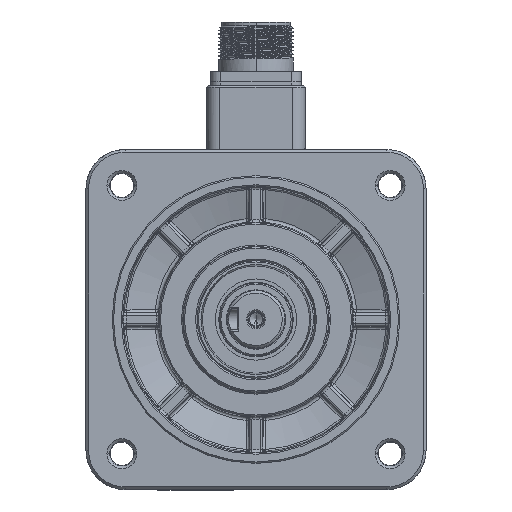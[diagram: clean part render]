
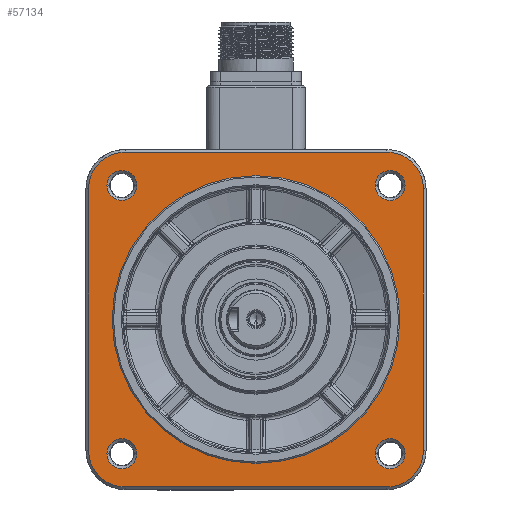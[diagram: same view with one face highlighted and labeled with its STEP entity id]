
A CAD part, top view. The second image highlights one B-rep face of the part: STEP entity #57134.
In plain terms, the highlighted planar face has unit normal (0, 0, 1).
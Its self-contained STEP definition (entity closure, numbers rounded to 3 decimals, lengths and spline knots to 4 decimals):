
#15927=CARTESIAN_POINT('',(-1.9685,1.9685,
3.3661));
#15928=DIRECTION('',(0.,0.,1.));
#15929=DIRECTION('',(0.,1.,0.));
#15930=AXIS2_PLACEMENT_3D('',#15927,#15928,#15929);
#15932=DIRECTION('',(-1.,0.,0.));
#15933=VECTOR('',#15932,3.937);
#15934=CARTESIAN_POINT('',(1.9685,2.519,3.3661));
#15935=LINE('',#15934,#15933);
#15936=CARTESIAN_POINT('',(1.9685,1.9685,3.3661));
#15937=DIRECTION('',(0.,0.,1.));
#15938=DIRECTION('',(1.,0.,0.));
#15939=AXIS2_PLACEMENT_3D('',#15936,#15937,#15938);
#15941=DIRECTION('',(0.,1.,0.));
#15942=VECTOR('',#15941,3.937);
#15943=CARTESIAN_POINT('',(2.519,-1.9685,
3.3661));
#15944=LINE('',#15943,#15942);
#15945=CARTESIAN_POINT('',(1.9685,-1.9685,
3.3661));
#15946=DIRECTION('',(0.,0.,1.));
#15947=DIRECTION('',(0.,-1.,0.));
#15948=AXIS2_PLACEMENT_3D('',#15945,#15946,#15947);
#15950=DIRECTION('',(1.,0.,0.));
#15951=VECTOR('',#15950,3.937);
#15952=CARTESIAN_POINT('',(-1.9685,-2.519,
3.3661));
#15953=LINE('',#15952,#15951);
#15954=CARTESIAN_POINT('',(-1.9685,-1.9685,
3.3661));
#15955=DIRECTION('',(0.,0.,1.));
#15956=DIRECTION('',(-1.,0.,0.));
#15957=AXIS2_PLACEMENT_3D('',#15954,#15955,#15956);
#15959=DIRECTION('',(0.,-1.,0.));
#15960=VECTOR('',#15959,3.937);
#15961=CARTESIAN_POINT('',(-2.519,1.9685,
3.3661));
#15962=LINE('',#15961,#15960);
#15963=CARTESIAN_POINT('',(-2.0183,2.0183,
3.3661));
#15964=DIRECTION('',(0.,0.,-1.));
#15965=DIRECTION('',(1.,0.,0.));
#15966=AXIS2_PLACEMENT_3D('',#15963,#15964,#15965);
#15968=CARTESIAN_POINT('',(-2.0183,2.0183,
3.3661));
#15969=DIRECTION('',(0.,0.,-1.));
#15970=DIRECTION('',(-1.,0.,0.));
#15971=AXIS2_PLACEMENT_3D('',#15968,#15969,#15970);
#15973=CARTESIAN_POINT('',(2.0183,2.0183,3.3661));
#15974=DIRECTION('',(0.,0.,-1.));
#15975=DIRECTION('',(-1.,0.,0.));
#15976=AXIS2_PLACEMENT_3D('',#15973,#15974,#15975);
#15978=CARTESIAN_POINT('',(2.0183,2.0183,3.3661));
#15979=DIRECTION('',(0.,0.,-1.));
#15980=DIRECTION('',(1.,0.,0.));
#15981=AXIS2_PLACEMENT_3D('',#15978,#15979,#15980);
#15983=CARTESIAN_POINT('',(2.0183,-2.0183,
3.3661));
#15984=DIRECTION('',(0.,0.,-1.));
#15985=DIRECTION('',(1.,0.,0.));
#15986=AXIS2_PLACEMENT_3D('',#15983,#15984,#15985);
#15988=CARTESIAN_POINT('',(2.0183,-2.0183,
3.3661));
#15989=DIRECTION('',(0.,0.,-1.));
#15990=DIRECTION('',(-1.,0.,0.));
#15991=AXIS2_PLACEMENT_3D('',#15988,#15989,#15990);
#15993=CARTESIAN_POINT('',(-2.0183,-2.0183,
3.3661));
#15994=DIRECTION('',(0.,0.,-1.));
#15995=DIRECTION('',(1.,0.,0.));
#15996=AXIS2_PLACEMENT_3D('',#15993,#15994,#15995);
#15998=CARTESIAN_POINT('',(-2.0183,-2.0183,
3.3661));
#15999=DIRECTION('',(0.,0.,-1.));
#16000=DIRECTION('',(-1.,0.,0.));
#16001=AXIS2_PLACEMENT_3D('',#15998,#15999,#16000);
#16124=CARTESIAN_POINT('',(0.,0.,3.3661));
#16125=DIRECTION('',(0.,0.,-1.));
#16126=DIRECTION('',(0.,1.,0.));
#16127=AXIS2_PLACEMENT_3D('',#16124,#16125,#16126);
#16166=CARTESIAN_POINT('',(0.,0.,3.3661));
#16167=DIRECTION('',(0.,0.,1.));
#16168=DIRECTION('',(0.,1.,0.));
#16169=AXIS2_PLACEMENT_3D('',#16166,#16167,#16168);
#27596=CARTESIAN_POINT('',(0.,2.1654,3.3661));
#27597=CARTESIAN_POINT('',(0.,-2.1654,3.3661));
#27598=VERTEX_POINT('',#27596);
#27599=VERTEX_POINT('',#27597);
#27900=CARTESIAN_POINT('',(-1.7932,2.0183,
3.3661));
#27901=CARTESIAN_POINT('',(-2.2434,2.0183,
3.3661));
#27902=VERTEX_POINT('',#27900);
#27903=VERTEX_POINT('',#27901);
#27908=CARTESIAN_POINT('',(-1.9685,2.519,
3.3661));
#27909=CARTESIAN_POINT('',(-2.519,1.9685,
3.3661));
#27910=VERTEX_POINT('',#27908);
#27911=VERTEX_POINT('',#27909);
#27916=CARTESIAN_POINT('',(-2.519,-1.9685,
3.3661));
#27917=VERTEX_POINT('',#27916);
#27920=CARTESIAN_POINT('',(-1.9685,-2.519,
3.3661));
#27921=VERTEX_POINT('',#27920);
#27924=CARTESIAN_POINT('',(1.9685,-2.519,
3.3661));
#27925=VERTEX_POINT('',#27924);
#27928=CARTESIAN_POINT('',(2.519,-1.9685,
3.3661));
#27929=VERTEX_POINT('',#27928);
#27932=CARTESIAN_POINT('',(2.519,1.9685,3.3661));
#27933=VERTEX_POINT('',#27932);
#27936=CARTESIAN_POINT('',(1.9685,2.519,3.3661));
#27937=VERTEX_POINT('',#27936);
#27940=CARTESIAN_POINT('',(1.7932,2.0183,3.3661));
#27941=CARTESIAN_POINT('',(2.2434,2.0183,3.3661));
#27942=VERTEX_POINT('',#27940);
#27943=VERTEX_POINT('',#27941);
#27948=CARTESIAN_POINT('',(2.2434,-2.0183,
3.3661));
#27949=CARTESIAN_POINT('',(1.7932,-2.0183,
3.3661));
#27950=VERTEX_POINT('',#27948);
#27951=VERTEX_POINT('',#27949);
#27956=CARTESIAN_POINT('',(-1.7932,-2.0183,
3.3661));
#27957=CARTESIAN_POINT('',(-2.2434,-2.0183,
3.3661));
#27958=VERTEX_POINT('',#27956);
#27959=VERTEX_POINT('',#27957);
#57082=CARTESIAN_POINT('',(0.,0.,3.3661));
#57083=DIRECTION('',(0.,0.,-1.));
#57084=DIRECTION('',(0.,-1.,0.));
#57085=AXIS2_PLACEMENT_3D('',#57082,#57083,#57084);
#57086=PLANE('',#57085);
#57088=ORIENTED_EDGE('',*,*,#57087,.F.);
#57090=ORIENTED_EDGE('',*,*,#57089,.F.);
#57092=ORIENTED_EDGE('',*,*,#57091,.F.);
#57094=ORIENTED_EDGE('',*,*,#57093,.F.);
#57096=ORIENTED_EDGE('',*,*,#57095,.F.);
#57098=ORIENTED_EDGE('',*,*,#57097,.F.);
#57100=ORIENTED_EDGE('',*,*,#57099,.F.);
#57102=ORIENTED_EDGE('',*,*,#57101,.F.);
#57103=EDGE_LOOP('',(#57088,#57090,#57092,#57094,#57096,#57098,#57100,#57102));
#57104=FACE_OUTER_BOUND('',#57103,.F.);
#57106=ORIENTED_EDGE('',*,*,#57105,.F.);
#57108=ORIENTED_EDGE('',*,*,#57107,.T.);
#57109=EDGE_LOOP('',(#57106,#57108));
#57110=FACE_BOUND('',#57109,.F.);
#57112=ORIENTED_EDGE('',*,*,#57111,.F.);
#57114=ORIENTED_EDGE('',*,*,#57113,.F.);
#57115=EDGE_LOOP('',(#57112,#57114));
#57116=FACE_BOUND('',#57115,.F.);
#57118=ORIENTED_EDGE('',*,*,#57117,.F.);
#57119=ORIENTED_EDGE('',*,*,#57072,.F.);
#57120=EDGE_LOOP('',(#57118,#57119));
#57121=FACE_BOUND('',#57120,.F.);
#57123=ORIENTED_EDGE('',*,*,#57122,.F.);
#57125=ORIENTED_EDGE('',*,*,#57124,.F.);
#57126=EDGE_LOOP('',(#57123,#57125));
#57127=FACE_BOUND('',#57126,.F.);
#57129=ORIENTED_EDGE('',*,*,#57128,.F.);
#57131=ORIENTED_EDGE('',*,*,#57130,.F.);
#57132=EDGE_LOOP('',(#57129,#57131));
#57133=FACE_BOUND('',#57132,.F.);
#57134=ADVANCED_FACE('',(#57104,#57110,#57116,#57121,#57127,#57133),#57086,.F.);
#15931=CIRCLE('',#15930,0.5505);
#15940=CIRCLE('',#15939,0.5505);
#15949=CIRCLE('',#15948,0.5505);
#15958=CIRCLE('',#15957,0.5505);
#15967=CIRCLE('',#15966,0.2251);
#15972=CIRCLE('',#15971,0.2251);
#15977=CIRCLE('',#15976,0.2251);
#15982=CIRCLE('',#15981,0.2251);
#15987=CIRCLE('',#15986,0.2251);
#15992=CIRCLE('',#15991,0.2251);
#15997=CIRCLE('',#15996,0.2251);
#16002=CIRCLE('',#16001,0.2251);
#16128=CIRCLE('',#16127,2.1654);
#16170=CIRCLE('',#16169,2.1654);
#57072=EDGE_CURVE('',#27943,#27942,#15982,.T.);
#57087=EDGE_CURVE('',#27910,#27911,#15931,.T.);
#57089=EDGE_CURVE('',#27937,#27910,#15935,.T.);
#57091=EDGE_CURVE('',#27933,#27937,#15940,.T.);
#57093=EDGE_CURVE('',#27929,#27933,#15944,.T.);
#57095=EDGE_CURVE('',#27925,#27929,#15949,.T.);
#57097=EDGE_CURVE('',#27921,#27925,#15953,.T.);
#57099=EDGE_CURVE('',#27917,#27921,#15958,.T.);
#57101=EDGE_CURVE('',#27911,#27917,#15962,.T.);
#57105=EDGE_CURVE('',#27598,#27599,#16128,.T.);
#57107=EDGE_CURVE('',#27598,#27599,#16170,.T.);
#57111=EDGE_CURVE('',#27902,#27903,#15967,.T.);
#57113=EDGE_CURVE('',#27903,#27902,#15972,.T.);
#57117=EDGE_CURVE('',#27942,#27943,#15977,.T.);
#57122=EDGE_CURVE('',#27950,#27951,#15987,.T.);
#57124=EDGE_CURVE('',#27951,#27950,#15992,.T.);
#57128=EDGE_CURVE('',#27958,#27959,#15997,.T.);
#57130=EDGE_CURVE('',#27959,#27958,#16002,.T.);
